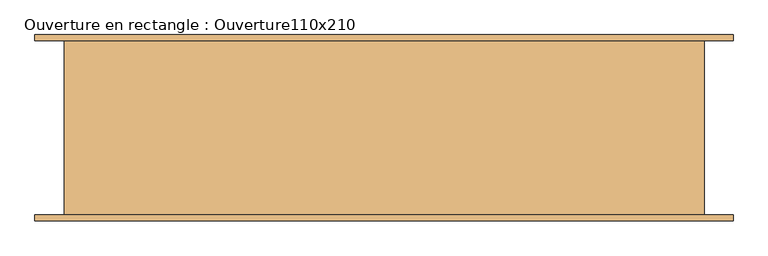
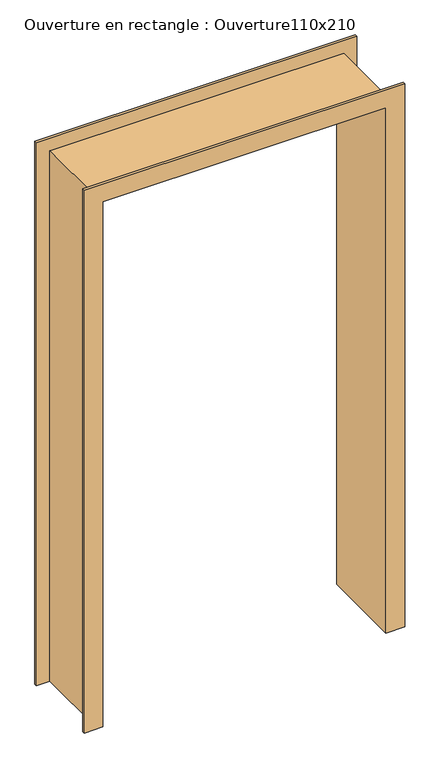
"""IFC4 building model written with IfcOpenShell, lengths in millimetres: door geometry, Ouverture en rectangle : Ouverture110x210."""

from ifc_helpers import new_model, si_unit, origin, place, context, project, spatial, faceted_brep, source, transform, mapped, element, save


def ouverture_en_rectangle_ouverture110x210_4d2e599e(model_context):
    return source(origin(), model_context, "Body", "Brep", [
        faceted_brep([(-550.0, -150.0, 0.0), (-550.0, 150.0, 0.0), (-600.0, 150.0, 0.0), (-600.0, 160.0, 0.0), (-530.0, 160.0, 0.0), (-530.0, -160.0, 0.0), (-600.0, -160.0, 0.0), (-600.0, -150.0, 0.0), (-550.0, -150.0, 2100.0), (-550.0, 150.0, 2100.0), (550.0, 150.0, 2100.0), (550.0, 150.0, 0.0), (600.0, 150.0, 0.0), (600.0, 150.0, 2150.0), (-600.0, 150.0, 2150.0), (-600.0, 160.0, 2150.0), (600.0, 160.0, 2150.0), (600.0, 160.0, 0.0), (530.0, 160.0, 0.0), (530.0, 160.0, 2080.0), (-530.0, 160.0, 2080.0), (-530.0, -160.0, 2080.0), (530.0, -160.0, 2080.0), (530.0, -160.0, 0.0), (600.0, -160.0, 0.0), (600.0, -160.0, 2150.0), (-600.0, -160.0, 2150.0), (-600.0, -150.0, 2150.0), (600.0, -150.0, 2150.0), (600.0, -150.0, 0.0), (550.0, -150.0, 0.0), (550.0, -150.0, 2100.0)], [[[0, 1, 2, 3, 4, 5, 6, 7]], [[1, 0, 8, 9]], [[2, 1, 9, 10, 11, 12, 13, 14]], [[3, 2, 14, 15]], [[4, 3, 15, 16, 17, 18, 19, 20]], [[5, 4, 20, 21]], [[6, 5, 21, 22, 23, 24, 25, 26]], [[7, 6, 26, 27]], [[0, 7, 27, 28, 29, 30, 31, 8]], [[10, 31, 30, 11]], [[30, 29, 24, 23, 18, 17, 12, 11]], [[16, 13, 12, 17]], [[22, 19, 18, 23]], [[28, 25, 24, 29]], [[9, 8, 31, 10]], [[15, 14, 13, 16]], [[21, 20, 19, 22]], [[27, 26, 25, 28]]]),
    ])


if __name__ == "__main__":
    model = new_model("IFC4")
    model_context = context("Model", 3, world=origin())
    ifc_project = project(units=[si_unit("LENGTHUNIT", "METRE", prefix="MILLI")], contexts=[model_context])
    site = spatial("IfcSite", under=ifc_project)
    building = spatial("IfcBuilding", under=site)
    placement = place(None, origin())
    ouverture_en_rectangle_ouverture110x210_shape = ouverture_en_rectangle_ouverture110x210_4d2e599e(model_context)
    element("IfcDoor", 1, ObjectType="Ouverture en rectangle : Ouverture110x210", at=placement, inside=building, context=model_context, shape_type="MappedRepresentation", body=[
        mapped(ouverture_en_rectangle_ouverture110x210_shape, transform((0.0, 0.0, 0.0), x_axis=(1.0, 0.0, 0.0), y_axis=(0.0, 1.0, 0.0), z_axis=(0.0, 0.0, 1.0))),
    ])
    save(model, "model.ifc")
